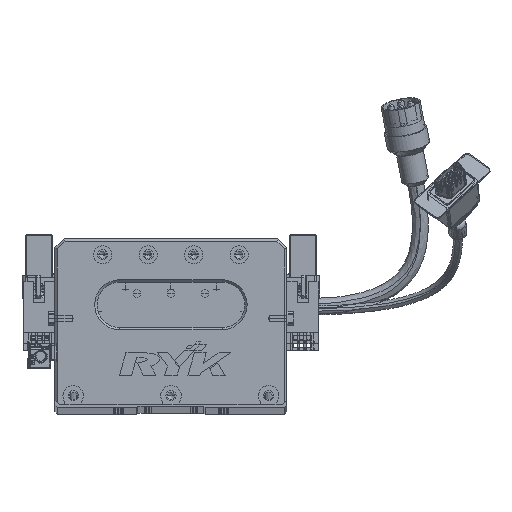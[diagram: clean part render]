
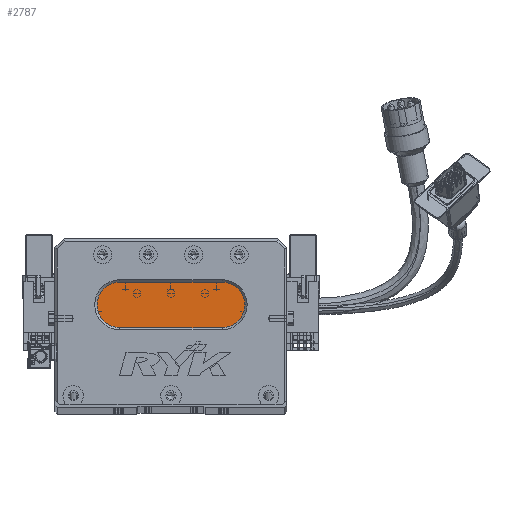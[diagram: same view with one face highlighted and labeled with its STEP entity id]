
A CAD part, top view. The second image highlights one B-rep face of the part: STEP entity #2787.
In plain terms, the highlighted planar face has unit normal (0, 0, 1) as drawn and (0, 0, -1) by its records, which use the part's own axes.
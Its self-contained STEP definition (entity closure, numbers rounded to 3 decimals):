
#813 = AXIS2_PLACEMENT_3D ( 'NONE', #60953, #37778, #2953 ) ;
#2787 = ADVANCED_FACE ( 'NONE', ( #49420 ), #9037, .T. ) ;
#2953 = DIRECTION ( 'NONE',  ( -1., 0., 0. ) ) ;
#3591 = DIRECTION ( 'NONE',  ( -1., 0., 0. ) ) ;
#5296 = CARTESIAN_POINT ( 'NONE',  ( 28.5, 34., 13. ) ) ;
#6347 = ORIENTED_EDGE ( 'NONE', *, *, #74353, .T. ) ;
#7011 = CARTESIAN_POINT ( 'NONE',  ( 73.5, 54., 13. ) ) ;
#9037 = PLANE ( 'NONE',  #813 ) ;
#12820 = DIRECTION ( 'NONE',  ( 0., 0., -1. ) ) ;
#14274 = DIRECTION ( 'NONE',  ( 0., 0., -1. ) ) ;
#17472 = EDGE_LOOP ( 'NONE', ( #26827, #39421, #6347, #48180, #25210 ) ) ;
#18656 = DIRECTION ( 'NONE',  ( 1., 0., 0. ) ) ;
#18961 = VERTEX_POINT ( 'NONE', #27990 ) ;
#21076 = CIRCLE ( 'NONE', #62588, 10. ) ;
#22607 = VECTOR ( 'NONE', #18656, 1000. ) ;
#23758 = CIRCLE ( 'NONE', #50595, 10. ) ;
#25210 = ORIENTED_EDGE ( 'NONE', *, *, #45793, .T. ) ;
#25814 = VERTEX_POINT ( 'NONE', #46718 ) ;
#26786 = EDGE_CURVE ( 'NONE', #42835, #65772, #65852, .T. ) ;
#26827 = ORIENTED_EDGE ( 'NONE', *, *, #27577, .T. ) ;
#27470 = CARTESIAN_POINT ( 'NONE',  ( 73.5, 34., 13. ) ) ;
#27577 = EDGE_CURVE ( 'NONE', #18961, #42835, #21076, .T. ) ;
#27990 = CARTESIAN_POINT ( 'NONE',  ( 73.5, 54., 13. ) ) ;
#30125 = DIRECTION ( 'NONE',  ( -1., 0., 0. ) ) ;
#31615 = CARTESIAN_POINT ( 'NONE',  ( 28.5, 44., 13. ) ) ;
#33940 = CARTESIAN_POINT ( 'NONE',  ( 28.5, 44., 13. ) ) ;
#35086 = AXIS2_PLACEMENT_3D ( 'NONE', #33940, #69796, #39801 ) ;
#37778 = DIRECTION ( 'NONE',  ( 0., 0., -1. ) ) ;
#38625 = CARTESIAN_POINT ( 'NONE',  ( 18.5, 44., 13. ) ) ;
#39421 = ORIENTED_EDGE ( 'NONE', *, *, #26786, .T. ) ;
#39801 = DIRECTION ( 'NONE',  ( -1., 0., 0. ) ) ;
#42835 = VERTEX_POINT ( 'NONE', #27470 ) ;
#43329 = DIRECTION ( 'NONE',  ( -1., 0., 0. ) ) ;
#45793 = EDGE_CURVE ( 'NONE', #25814, #18961, #50919, .T. ) ;
#46718 = CARTESIAN_POINT ( 'NONE',  ( 28.5, 54., 13. ) ) ;
#47739 = CARTESIAN_POINT ( 'NONE',  ( 73.5, 44., 13. ) ) ;
#48180 = ORIENTED_EDGE ( 'NONE', *, *, #63452, .T. ) ;
#49420 = FACE_OUTER_BOUND ( 'NONE', #17472, .T. ) ;
#50595 = AXIS2_PLACEMENT_3D ( 'NONE', #31615, #14274, #43329 ) ;
#50919 = LINE ( 'NONE', #7011, #22607 ) ;
#59227 = CIRCLE ( 'NONE', #35086, 10. ) ;
#60953 = CARTESIAN_POINT ( 'NONE',  ( 73.5, 44., 13. ) ) ;
#62588 = AXIS2_PLACEMENT_3D ( 'NONE', #47739, #12820, #30125 ) ;
#63452 = EDGE_CURVE ( 'NONE', #64179, #25814, #23758, .T. ) ;
#64179 = VERTEX_POINT ( 'NONE', #38625 ) ;
#65772 = VERTEX_POINT ( 'NONE', #5296 ) ;
#65852 = LINE ( 'NONE', #67916, #71332 ) ;
#67916 = CARTESIAN_POINT ( 'NONE',  ( 73.5, 34., 13. ) ) ;
#69796 = DIRECTION ( 'NONE',  ( 0., 0., -1. ) ) ;
#71332 = VECTOR ( 'NONE', #3591, 1000. ) ;
#74353 = EDGE_CURVE ( 'NONE', #65772, #64179, #59227, .T. ) ;
